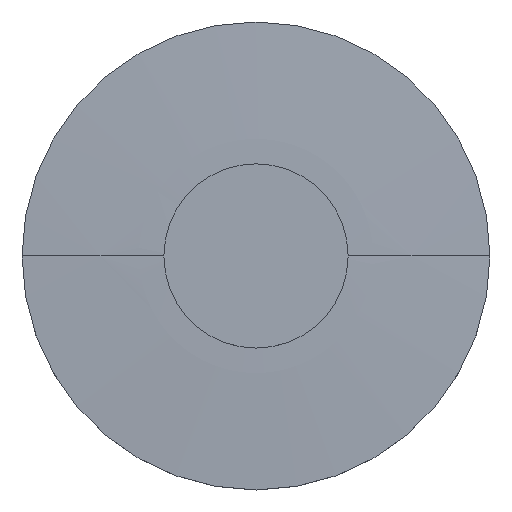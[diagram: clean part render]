
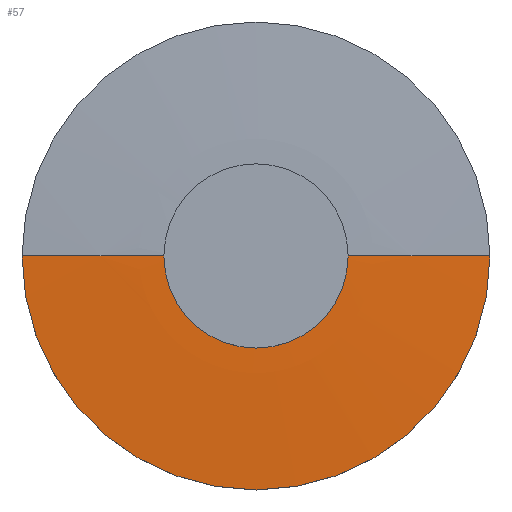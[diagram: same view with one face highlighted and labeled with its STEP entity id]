
A CAD part, top view. The second image highlights one B-rep face of the part: STEP entity #57.
In plain terms, the highlighted spherical face has radius 529.942 mm.
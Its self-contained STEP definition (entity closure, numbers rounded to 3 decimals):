
#57=ADVANCED_FACE('',(#71),#72,.T.);
#71=FACE_OUTER_BOUND('',#91,.T.);
#72=SPHERICAL_SURFACE('',#92,529.942);
#91=EDGE_LOOP('',(#124,#125,#126));
#92=AXIS2_PLACEMENT_3D('',#127,#128,#129);
#124=ORIENTED_EDGE('',*,*,#173,.T.);
#125=ORIENTED_EDGE('',*,*,#174,.T.);
#126=ORIENTED_EDGE('',*,*,#175,.T.);
#127=CARTESIAN_POINT('',(0.0,0.0,-522.942));
#128=DIRECTION('',(0.0,0.0,1.0));
#129=DIRECTION('',(1.0,0.0,0.0));
#173=EDGE_CURVE('',#189,#194,#195,.T.);
#174=EDGE_CURVE('',#194,#191,#196,.T.);
#175=EDGE_CURVE('',#191,#189,#197,.T.);
#189=VERTEX_POINT('',#215);
#191=VERTEX_POINT('',#218);
#194=VERTEX_POINT('',#222);
#195=CIRCLE('',#223,529.942);
#196=CIRCLE('',#224,529.942);
#197=CIRCLE('',#225,25.4);
#215=CARTESIAN_POINT('',(25.4,0.,6.391));
#218=CARTESIAN_POINT('',(-25.4,0.,6.391));
#222=CARTESIAN_POINT('',(0.0,0.0,7.0));
#223=AXIS2_PLACEMENT_3D('',#253,#254,#255);
#224=AXIS2_PLACEMENT_3D('',#256,#257,#258);
#225=AXIS2_PLACEMENT_3D('',#259,#260,#261);
#253=CARTESIAN_POINT('',(0.0,0.0,-522.942));
#254=DIRECTION('',(0.,-1.0,0.0));
#255=DIRECTION('',(0.0,0.0,1.0));
#256=CARTESIAN_POINT('',(0.0,0.0,-522.942));
#257=DIRECTION('',(0.,-1.0,0.0));
#258=DIRECTION('',(0.0,0.0,1.0));
#259=CARTESIAN_POINT('',(0.0,0.0,6.391));
#260=DIRECTION('',(0.0,0.0,1.0));
#261=DIRECTION('',(1.0,0.0,0.0));
